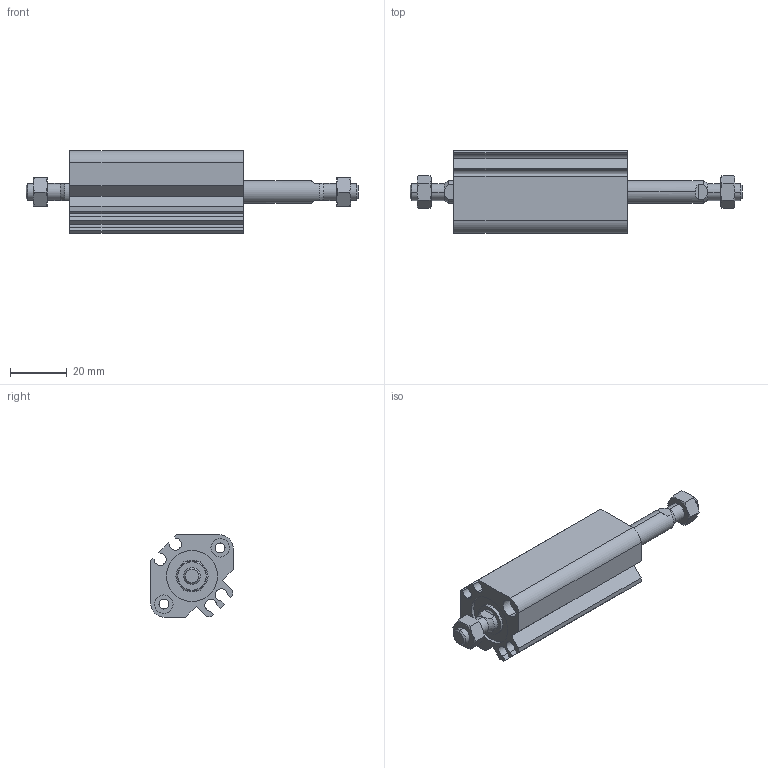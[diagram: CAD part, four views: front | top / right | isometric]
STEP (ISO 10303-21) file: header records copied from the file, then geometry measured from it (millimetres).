
FILE_DESCRIPTION (( 'STEP AP203' ), '1' );
FILE_NAME ('CCMB16-25M-P.STEP', '2020-08-10T11:06:41', ( '' ), ( '' ), 'SwSTEP 2.0', 'SolidWorks 2019', '' );
FILE_SCHEMA (( 'CONFIG_CONTROL_DESIGN' ));
Length unit declared in the file: millimetre
Products named in the file (1): CCMB16-25M-P
Bounding box: 117 x 29 x 29 mm (x, y, z)
Volume: 37863.8 mm3; surface area: 18943.1 mm2
Topology: 4 solids, 4 shells, 166 faces, 384 edges, 240 vertices
Faces by surface type: plane 66, cylinder 56, cone 44
Entity records: 5239 total; most frequent: CARTESIAN_POINT 1379, DIRECTION 806, ORIENTED_EDGE 768, EDGE_CURVE 384, AXIS2_PLACEMENT_3D 319, VERTEX_POINT 240, EDGE_LOOP 190, LINE 168
